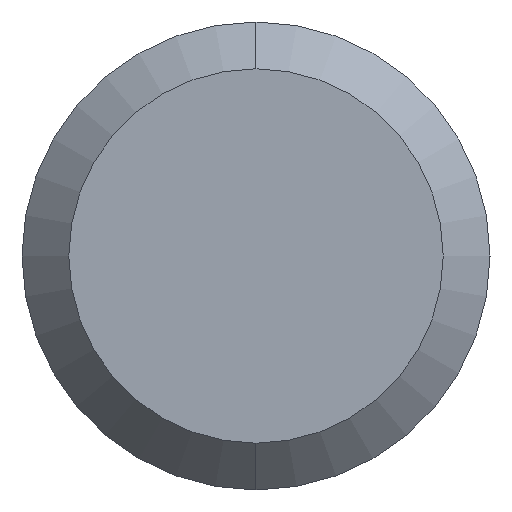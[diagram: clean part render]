
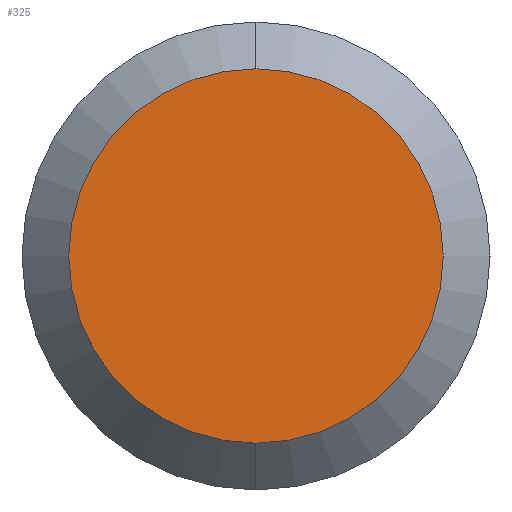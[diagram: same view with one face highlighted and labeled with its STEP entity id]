
A CAD part, left-side view. The second image highlights one B-rep face of the part: STEP entity #325.
In plain terms, the highlighted planar face has unit normal (-1, 0, 0).
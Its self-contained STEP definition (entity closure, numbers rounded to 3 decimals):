
#46 = ORIENTED_EDGE ( 'NONE', *, *, #104, .T. ) ;
#61 = DIRECTION ( 'NONE',  ( -1., 0., 0. ) ) ;
#73 = CARTESIAN_POINT ( 'NONE',  ( 0., 0., -2.4 ) ) ;
#78 = AXIS2_PLACEMENT_3D ( 'NONE', #152, #421, #379 ) ;
#97 = DIRECTION ( 'NONE',  ( 0., 0., 1. ) ) ;
#104 = EDGE_CURVE ( 'NONE', #377, #248, #223, .T. ) ;
#106 = CARTESIAN_POINT ( 'NONE',  ( 0., 0., 2.4 ) ) ;
#117 = ORIENTED_EDGE ( 'NONE', *, *, #416, .T. ) ;
#152 = CARTESIAN_POINT ( 'NONE',  ( 0., 0., 0. ) ) ;
#166 = DIRECTION ( 'NONE',  ( 0., 0., 1. ) ) ;
#223 = CIRCLE ( 'NONE', #338, 2.4 ) ;
#248 = VERTEX_POINT ( 'NONE', #106 ) ;
#266 = AXIS2_PLACEMENT_3D ( 'NONE', #368, #61, #97 ) ;
#289 = FACE_OUTER_BOUND ( 'NONE', #357, .T. ) ;
#294 = DIRECTION ( 'NONE',  ( -1., 0., 0. ) ) ;
#325 = ADVANCED_FACE ( 'NONE', ( #289 ), #351, .F. ) ;
#338 = AXIS2_PLACEMENT_3D ( 'NONE', #408, #294, #166 ) ;
#345 = CIRCLE ( 'NONE', #266, 2.4 ) ;
#351 = PLANE ( 'NONE',  #78 ) ;
#357 = EDGE_LOOP ( 'NONE', ( #46, #117 ) ) ;
#368 = CARTESIAN_POINT ( 'NONE',  ( 0., 0., 0. ) ) ;
#377 = VERTEX_POINT ( 'NONE', #73 ) ;
#379 = DIRECTION ( 'NONE',  ( 0., 0., -1. ) ) ;
#408 = CARTESIAN_POINT ( 'NONE',  ( 0., 0., 0. ) ) ;
#416 = EDGE_CURVE ( 'NONE', #248, #377, #345, .T. ) ;
#421 = DIRECTION ( 'NONE',  ( 1., 0., 0. ) ) ;
